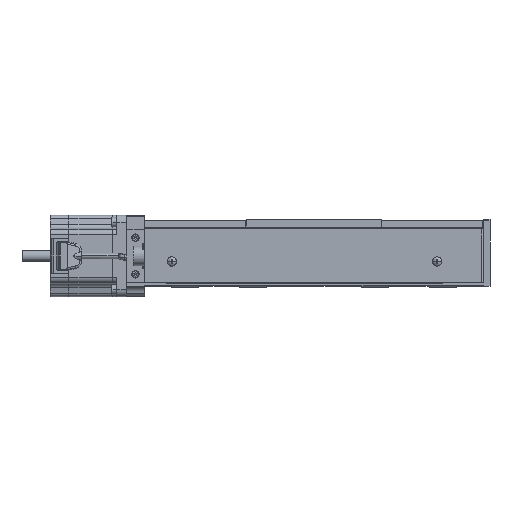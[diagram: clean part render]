
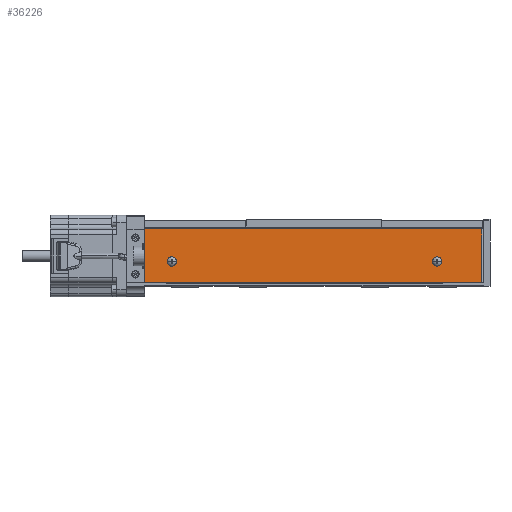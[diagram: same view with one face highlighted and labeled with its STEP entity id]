
A CAD part, front view. The second image highlights one B-rep face of the part: STEP entity #36226.
In plain terms, the highlighted planar face has unit normal (0, -1, 0).
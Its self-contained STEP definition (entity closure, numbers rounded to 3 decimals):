
#797 = ORIENTED_EDGE ( 'NONE', *, *, #71654, .F. ) ;
#856 = LINE ( 'NONE', #52397, #73831 ) ;
#1016 = CARTESIAN_POINT ( 'NONE',  ( 365.73, -235.111, 84. ) ) ;
#1119 = AXIS2_PLACEMENT_3D ( 'NONE', #27643, #55946, #3789 ) ;
#2442 = CIRCLE ( 'NONE', #18751, 3.45 ) ;
#3557 = FACE_BOUND ( 'NONE', #74441, .T. ) ;
#3789 = DIRECTION ( 'NONE',  ( 0., 0., 1. ) ) ;
#5835 = DIRECTION ( 'NONE',  ( 0., -1., 0. ) ) ;
#6067 = EDGE_LOOP ( 'NONE', ( #8964, #67273 ) ) ;
#8964 = ORIENTED_EDGE ( 'NONE', *, *, #67279, .F. ) ;
#9341 = LINE ( 'NONE', #32130, #25485 ) ;
#9794 = CARTESIAN_POINT ( 'NONE',  ( 169.73, -235.111, 84. ) ) ;
#11033 = CARTESIAN_POINT ( 'NONE',  ( 169.73, -235.111, 84. ) ) ;
#11727 = LINE ( 'NONE', #53464, #13533 ) ;
#12333 = DIRECTION ( 'NONE',  ( 0., 0., -1. ) ) ;
#12662 = CARTESIAN_POINT ( 'NONE',  ( 398.73, -235.111, 68.5 ) ) ;
#13533 = VECTOR ( 'NONE', #36538, 1000. ) ;
#16769 = CARTESIAN_POINT ( 'NONE',  ( 362.28, -235.111, 84. ) ) ;
#16806 = ORIENTED_EDGE ( 'NONE', *, *, #54022, .F. ) ;
#17084 = EDGE_CURVE ( 'NONE', #17979, #31275, #69245, .T. ) ;
#17855 = DIRECTION ( 'NONE',  ( -1., 0., 0. ) ) ;
#17979 = VERTEX_POINT ( 'NONE', #16769 ) ;
#18015 = CIRCLE ( 'NONE', #60947, 3.45 ) ;
#18580 = VERTEX_POINT ( 'NONE', #39794 ) ;
#18751 = AXIS2_PLACEMENT_3D ( 'NONE', #9794, #62463, #33412 ) ;
#20371 = EDGE_CURVE ( 'NONE', #69362, #26042, #64312, .T. ) ;
#22557 = DIRECTION ( 'NONE',  ( 0., 0., -1. ) ) ;
#25485 = VECTOR ( 'NONE', #54905, 1000. ) ;
#25876 = ORIENTED_EDGE ( 'NONE', *, *, #40505, .F. ) ;
#26042 = VERTEX_POINT ( 'NONE', #49316 ) ;
#27325 = AXIS2_PLACEMENT_3D ( 'NONE', #11033, #51345, #22557 ) ;
#27643 = CARTESIAN_POINT ( 'NONE',  ( 398.73, -235.111, 68.5 ) ) ;
#27671 = CARTESIAN_POINT ( 'NONE',  ( 173.18, -235.111, 84. ) ) ;
#29124 = EDGE_CURVE ( 'NONE', #26042, #57096, #856, .T. ) ;
#29461 = VERTEX_POINT ( 'NONE', #55038 ) ;
#31254 = EDGE_LOOP ( 'NONE', ( #16806, #40708, #33835, #73962, #46420 ) ) ;
#31275 = VERTEX_POINT ( 'NONE', #72823 ) ;
#32130 = CARTESIAN_POINT ( 'NONE',  ( 149.73, -235.111, 68.5 ) ) ;
#33194 = FACE_BOUND ( 'NONE', #6067, .T. ) ;
#33412 = DIRECTION ( 'NONE',  ( 0., 0., -1. ) ) ;
#33835 = ORIENTED_EDGE ( 'NONE', *, *, #20371, .T. ) ;
#36226 = ADVANCED_FACE ( 'NONE', ( #3557, #33194, #63054 ), #44554, .T. ) ;
#36400 = CARTESIAN_POINT ( 'NONE',  ( 398.73, -235.111, 68.5 ) ) ;
#36538 = DIRECTION ( 'NONE',  ( -1., 0., 0. ) ) ;
#39794 = CARTESIAN_POINT ( 'NONE',  ( 166.28, -235.111, 84. ) ) ;
#39894 = CARTESIAN_POINT ( 'NONE',  ( 398.73, -235.111, 68.5 ) ) ;
#40505 = EDGE_CURVE ( 'NONE', #73457, #18580, #2442, .T. ) ;
#40708 = ORIENTED_EDGE ( 'NONE', *, *, #71884, .T. ) ;
#44554 = PLANE ( 'NONE',  #1119 ) ;
#45332 = CIRCLE ( 'NONE', #27325, 3.45 ) ;
#45718 = DIRECTION ( 'NONE',  ( 0., 0., 1. ) ) ;
#46420 = ORIENTED_EDGE ( 'NONE', *, *, #71289, .F. ) ;
#47193 = DIRECTION ( 'NONE',  ( 0., -1., 0. ) ) ;
#47685 = DIRECTION ( 'NONE',  ( 0., 0., -1. ) ) ;
#49316 = CARTESIAN_POINT ( 'NONE',  ( 398.73, -235.111, 108. ) ) ;
#51345 = DIRECTION ( 'NONE',  ( 0., -1., 0. ) ) ;
#52397 = CARTESIAN_POINT ( 'NONE',  ( 398.73, -235.111, 108. ) ) ;
#53456 = LINE ( 'NONE', #36400, #66951 ) ;
#53464 = CARTESIAN_POINT ( 'NONE',  ( 398.73, -235.111, 68.5 ) ) ;
#53584 = DIRECTION ( 'NONE',  ( 0., 0., 1. ) ) ;
#54022 = EDGE_CURVE ( 'NONE', #70787, #29461, #11727, .T. ) ;
#54905 = DIRECTION ( 'NONE',  ( 0., 0., 1. ) ) ;
#55038 = CARTESIAN_POINT ( 'NONE',  ( 149.73, -235.111, 68.5 ) ) ;
#55495 = CARTESIAN_POINT ( 'NONE',  ( 149.73, -235.111, 108. ) ) ;
#55946 = DIRECTION ( 'NONE',  ( 0., -1., 0. ) ) ;
#57096 = VERTEX_POINT ( 'NONE', #55495 ) ;
#59560 = CARTESIAN_POINT ( 'NONE',  ( 365.73, -235.111, 84. ) ) ;
#59849 = VECTOR ( 'NONE', #45718, 1000. ) ;
#60947 = AXIS2_PLACEMENT_3D ( 'NONE', #1016, #5835, #12333 ) ;
#61499 = CARTESIAN_POINT ( 'NONE',  ( 398.73, -235.111, 107.97 ) ) ;
#62463 = DIRECTION ( 'NONE',  ( 0., -1., 0. ) ) ;
#63054 = FACE_OUTER_BOUND ( 'NONE', #31254, .T. ) ;
#64312 = LINE ( 'NONE', #39894, #59849 ) ;
#66951 = VECTOR ( 'NONE', #53584, 1000. ) ;
#67273 = ORIENTED_EDGE ( 'NONE', *, *, #17084, .F. ) ;
#67279 = EDGE_CURVE ( 'NONE', #31275, #17979, #18015, .T. ) ;
#69245 = CIRCLE ( 'NONE', #71944, 3.45 ) ;
#69362 = VERTEX_POINT ( 'NONE', #61499 ) ;
#70787 = VERTEX_POINT ( 'NONE', #12662 ) ;
#71289 = EDGE_CURVE ( 'NONE', #29461, #57096, #9341, .T. ) ;
#71654 = EDGE_CURVE ( 'NONE', #18580, #73457, #45332, .T. ) ;
#71884 = EDGE_CURVE ( 'NONE', #70787, #69362, #53456, .T. ) ;
#71944 = AXIS2_PLACEMENT_3D ( 'NONE', #59560, #47193, #47685 ) ;
#72823 = CARTESIAN_POINT ( 'NONE',  ( 369.18, -235.111, 84. ) ) ;
#73457 = VERTEX_POINT ( 'NONE', #27671 ) ;
#73831 = VECTOR ( 'NONE', #17855, 1000. ) ;
#73962 = ORIENTED_EDGE ( 'NONE', *, *, #29124, .T. ) ;
#74441 = EDGE_LOOP ( 'NONE', ( #25876, #797 ) ) ;
